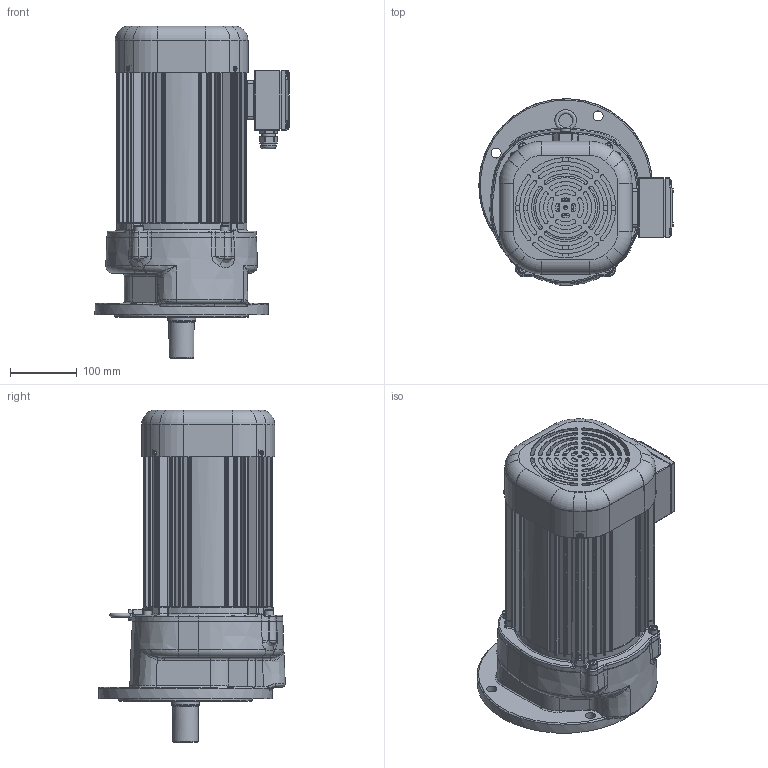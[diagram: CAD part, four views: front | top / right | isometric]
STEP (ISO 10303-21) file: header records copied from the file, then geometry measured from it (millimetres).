
FILE_DESCRIPTION(/* description */ (''),/* implementation_level */ '2;1');
FILE_NAME(/* name */ 'Z:\동력 3D 파일\PMK153_2.2kW_3D.stp',/* time_stamp */ '2021-12-01T08:59:23+09:00',/* author */ ('jaebok'),/* organization */ (''),/* preprocessor_version */ 'ST-DEVELOPER v18.1',/* originating_system */ 'Autodesk Inventor 2022',/* authorisation */ '');
FILE_SCHEMA (('AUTOMOTIVE_DESIGN { 1 0 10303 214 3 1 1 }'));
Products named in the file (1): 부품4
Bounding box: 291 x 279.52 x 497.5 mm (x, y, z)
Volume: 4334017.6 mm3; surface area: 1172424.7 mm2
Topology: 2 solids, 33 shells, 3751 faces, 9444 edges, 5708 vertices
Faces by surface type: plane 1080, bspline 1036, cylinder 921, torus 412, cone 240, sphere 62
Full cylindrical faces by diameter (mm): 2 x1, 3.25 x1, 3.5 x4, 3.6 x4, 4 x21, 5 x13, 6 x5, 6.8 x9, 7 x9, 8 x19, 8.8 x4, 9 x4, 10 x1, 12.5 x1, 13 x4, 15 x5, 16 x1, 20 x2, 20.6 x1, 21 x1, 23.5 x1, 23.6 x1, 25 x1, 28 x2, 31 x1, 35 x1, 36 x1, 38 x1, 39.6 x1, 40.15 x1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
Entity records: 148609 total; most frequent: CARTESIAN_POINT 61247, ORIENTED_EDGE 18570, DIRECTION 15879, EDGE_CURVE 9285, AXIS2_PLACEMENT_3D 6506, VERTEX_POINT 5707, EDGE_LOOP 3982, FACE_OUTER_BOUND 3751
